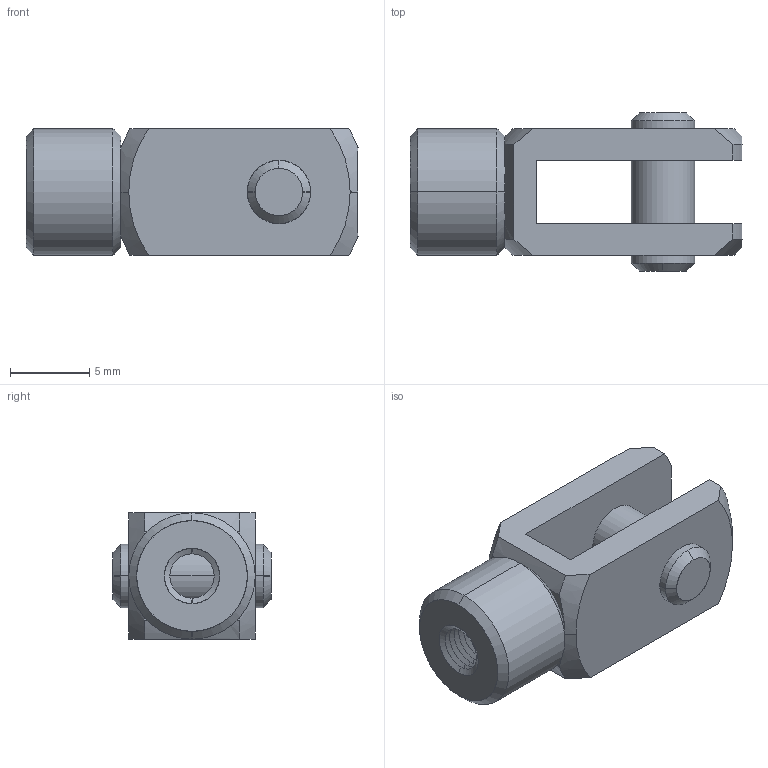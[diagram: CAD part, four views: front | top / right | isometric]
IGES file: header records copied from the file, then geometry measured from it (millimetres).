
Start section: SolidWorks IGES file using analytic representation for surfaces
Bounding box: 21 x 10 x 8 mm (x, y, z)
Surface area: 946.1 mm2 (no closed solid volume)
Topology: 0 solids, 0 shells, 61 faces, 632 edges, 632 vertices
Faces by surface type: revolution 43, bspline 18
